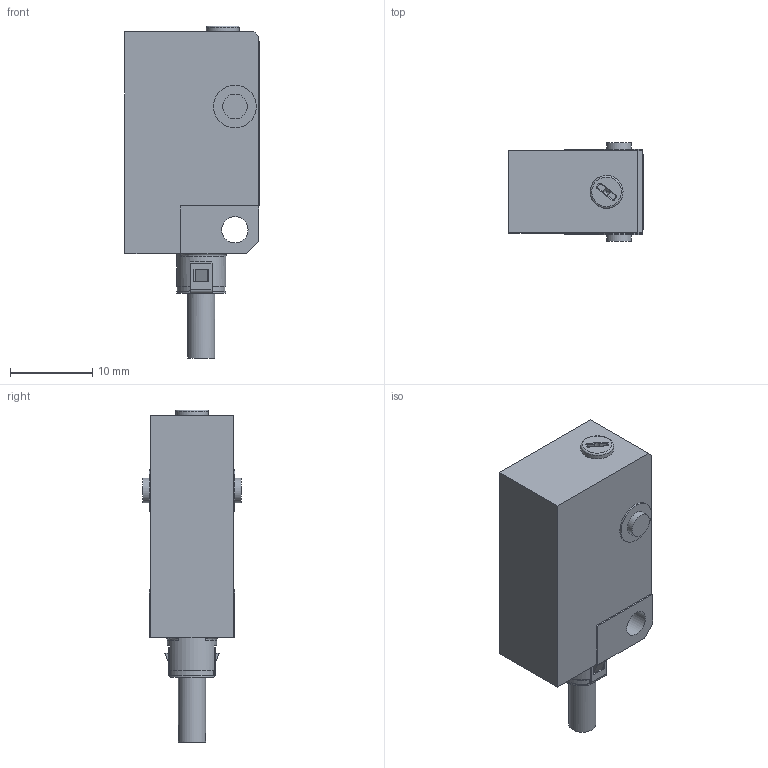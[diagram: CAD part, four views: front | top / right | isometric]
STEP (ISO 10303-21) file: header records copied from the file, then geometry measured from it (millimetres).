
FILE_DESCRIPTION( ( 'Unknown' ), '1' );
FILE_NAME( '//baumernet.org/ch01apps/SolidEdge/Models/Dokumentationen/Opto/OxDK 10_Stecker-Kabel_neu/Vereinfachte Modelle/Neutralformate/OHDK 10.stp', 'Unknown', ( 'Unknown' ), ( 'Unknown' ), 'PSStep 15.0.49', 'Unknown', ' ' );
FILE_SCHEMA( ( 'AUTOMOTIVE_DESIGN { 1 0 10303 214 1 1 1 1 }' ) );
Length unit declared in the file: millimetre
Products named in the file (1): SchrHG
Bounding box: 16.35 x 12 x 40.4 mm (x, y, z)
Volume: 4565.2 mm3; surface area: 2085 mm2
Topology: 1 solids, 1 shells, 119 faces, 297 edges, 189 vertices
Faces by surface type: plane 79, cylinder 32, torus 6, cone 2
Full cylindrical faces by diameter (mm): 3 x2, 3.2 x1, 3.3 x1, 3.4 x1, 3.5 x1, 4 x1, 5.2 x2, 6 x1
Entity records: 3497 total; most frequent: CARTESIAN_POINT 705, DIRECTION 564, ORIENTED_EDGE 558, EDGE_CURVE 279, LINE 190, VECTOR 190, AXIS2_PLACEMENT_3D 187, VERTEX_POINT 184
